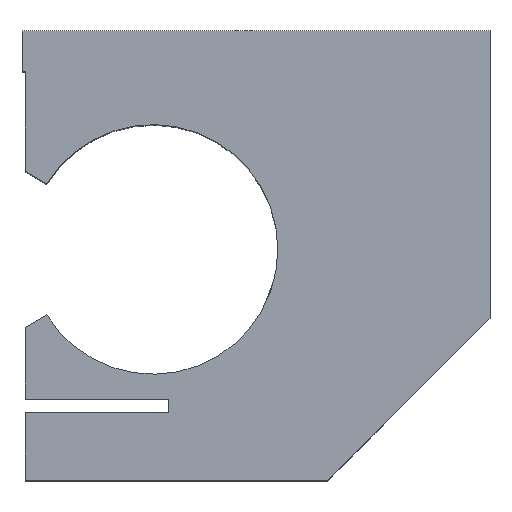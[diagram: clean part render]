
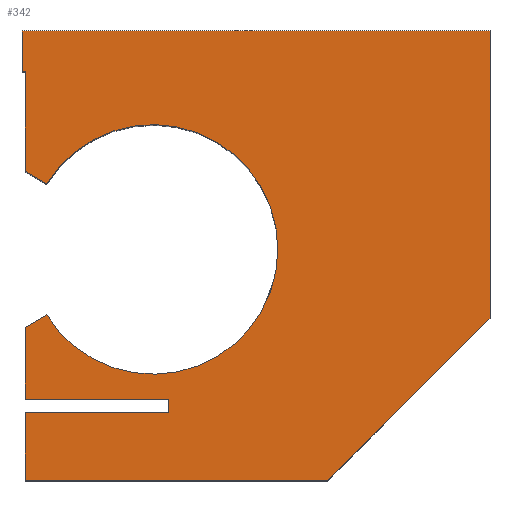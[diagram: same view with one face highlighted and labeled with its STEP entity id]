
A CAD part, top view. The second image highlights one B-rep face of the part: STEP entity #342.
In plain terms, the highlighted planar face has unit normal (0, 0, 1).
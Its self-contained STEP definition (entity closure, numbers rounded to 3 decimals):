
#22 = VERTEX_POINT ( 'NONE', #1128 ) ;
#55 = VECTOR ( 'NONE', #841, 1000. ) ;
#64 = VECTOR ( 'NONE', #785, 1000. ) ;
#68 = LINE ( 'NONE', #1451, #155 ) ;
#69 = LINE ( 'NONE', #1640, #152 ) ;
#79 = CARTESIAN_POINT ( 'NONE',  ( -33.522, 11.5, 33.5 ) ) ;
#80 = VERTEX_POINT ( 'NONE', #250 ) ;
#89 = CARTESIAN_POINT ( 'NONE',  ( -37., -25.15, 33.5 ) ) ;
#92 = VECTOR ( 'NONE', #1228, 1000. ) ;
#110 = LINE ( 'NONE', #406, #1196 ) ;
#130 = DIRECTION ( 'NONE',  ( -1., 0., 0. ) ) ;
#132 = CARTESIAN_POINT ( 'NONE',  ( -16.5, 1., 33.5 ) ) ;
#144 = VERTEX_POINT ( 'NONE', #1659 ) ;
#152 = VECTOR ( 'NONE', #450, 1000. ) ;
#155 = VECTOR ( 'NONE', #305, 1000. ) ;
#247 = LINE ( 'NONE', #661, #64 ) ;
#250 = CARTESIAN_POINT ( 'NONE',  ( 37.5, -10., 33.5 ) ) ;
#251 = CARTESIAN_POINT ( 'NONE',  ( -37., 29.5, 33.5 ) ) ;
#257 = AXIS2_PLACEMENT_3D ( 'NONE', #132, #1045, #1397 ) ;
#280 = DIRECTION ( 'NONE',  ( -1., 0., 0. ) ) ;
#292 = LINE ( 'NONE', #556, #1330 ) ;
#304 = ORIENTED_EDGE ( 'NONE', *, *, #1155, .T. ) ;
#305 = DIRECTION ( 'NONE',  ( -0.866, 0.5, 0. ) ) ;
#320 = FACE_OUTER_BOUND ( 'NONE', #571, .T. ) ;
#342 = ADVANCED_FACE ( 'NONE', ( #320 ), #1368, .T. ) ;
#347 = VECTOR ( 'NONE', #1028, 1000. ) ;
#362 = CARTESIAN_POINT ( 'NONE',  ( -37., -11.508, 33.5 ) ) ;
#363 = ORIENTED_EDGE ( 'NONE', *, *, #1152, .F. ) ;
#381 = CARTESIAN_POINT ( 'NONE',  ( -37.5, 36., 33.5 ) ) ;
#406 = CARTESIAN_POINT ( 'NONE',  ( 23.75, -23.75, 33.5 ) ) ;
#413 = CARTESIAN_POINT ( 'NONE',  ( -33.522, -9.5, 33.5 ) ) ;
#450 = DIRECTION ( 'NONE',  ( 0., 1., 0. ) ) ;
#487 = LINE ( 'NONE', #1432, #347 ) ;
#519 = CARTESIAN_POINT ( 'NONE',  ( -37.5, 29.5, 33.5 ) ) ;
#522 = ORIENTED_EDGE ( 'NONE', *, *, #604, .F. ) ;
#526 = VERTEX_POINT ( 'NONE', #631 ) ;
#542 = EDGE_CURVE ( 'NONE', #144, #1108, #1672, .T. ) ;
#556 = CARTESIAN_POINT ( 'NONE',  ( -14., -23., 33.5 ) ) ;
#561 = VECTOR ( 'NONE', #671, 1000. ) ;
#570 = LINE ( 'NONE', #1103, #55 ) ;
#571 = EDGE_LOOP ( 'NONE', ( #608, #1200, #913, #1179, #1178, #522, #729, #928, #363, #1680, #1696, #886, #1323, #655, #670, #304 ) ) ;
#577 = EDGE_CURVE ( 'NONE', #1531, #1457, #247, .T. ) ;
#596 = CARTESIAN_POINT ( 'NONE',  ( -14., -23., 33.5 ) ) ;
#604 = EDGE_CURVE ( 'NONE', #1457, #821, #487, .T. ) ;
#608 = ORIENTED_EDGE ( 'NONE', *, *, #1416, .F. ) ;
#616 = VECTOR ( 'NONE', #895, 1000. ) ;
#631 = CARTESIAN_POINT ( 'NONE',  ( -37., 13.508, 33.5 ) ) ;
#641 = DIRECTION ( 'NONE',  ( 0., 1., 0. ) ) ;
#655 = ORIENTED_EDGE ( 'NONE', *, *, #1276, .T. ) ;
#661 = CARTESIAN_POINT ( 'NONE',  ( -37., 29.5, 33.5 ) ) ;
#670 = ORIENTED_EDGE ( 'NONE', *, *, #542, .T. ) ;
#671 = DIRECTION ( 'NONE',  ( 0., 1., 0. ) ) ;
#685 = VECTOR ( 'NONE', #130, 1000. ) ;
#706 = VERTEX_POINT ( 'NONE', #930 ) ;
#724 = CARTESIAN_POINT ( 'NONE',  ( 0., 0., 33.5 ) ) ;
#729 = ORIENTED_EDGE ( 'NONE', *, *, #577, .F. ) ;
#734 = CARTESIAN_POINT ( 'NONE',  ( 11.5, -36., 33.5 ) ) ;
#748 = CARTESIAN_POINT ( 'NONE',  ( -37.5, 36., 33.5 ) ) ;
#749 = CARTESIAN_POINT ( 'NONE',  ( -16.5, 1., 33.5 ) ) ;
#760 = CARTESIAN_POINT ( 'NONE',  ( -37.5, 36., 33.5 ) ) ;
#768 = VERTEX_POINT ( 'NONE', #1287 ) ;
#778 = EDGE_CURVE ( 'NONE', #1236, #80, #110, .T. ) ;
#779 = CIRCLE ( 'NONE', #1292, 20. ) ;
#785 = DIRECTION ( 'NONE',  ( 0., 1., 0. ) ) ;
#821 = VERTEX_POINT ( 'NONE', #413 ) ;
#841 = DIRECTION ( 'NONE',  ( 1., 0., 0. ) ) ;
#886 = ORIENTED_EDGE ( 'NONE', *, *, #1331, .T. ) ;
#895 = DIRECTION ( 'NONE',  ( 0., -1., 0. ) ) ;
#898 = AXIS2_PLACEMENT_3D ( 'NONE', #724, #1092, #1257 ) ;
#908 = DIRECTION ( 'NONE',  ( 1., 0., 0. ) ) ;
#913 = ORIENTED_EDGE ( 'NONE', *, *, #1058, .F. ) ;
#928 = ORIENTED_EDGE ( 'NONE', *, *, #1046, .F. ) ;
#930 = CARTESIAN_POINT ( 'NONE',  ( -14., -23., 33.5 ) ) ;
#941 = CARTESIAN_POINT ( 'NONE',  ( -14., -25.15, 33.5 ) ) ;
#961 = EDGE_CURVE ( 'NONE', #526, #22, #1560, .T. ) ;
#983 = CARTESIAN_POINT ( 'NONE',  ( -37., 29.5, 33.5 ) ) ;
#1011 = EDGE_CURVE ( 'NONE', #768, #1120, #1669, .T. ) ;
#1028 = DIRECTION ( 'NONE',  ( 0.866, 0.5, 0. ) ) ;
#1045 = DIRECTION ( 'NONE',  ( 0., 0., 1. ) ) ;
#1046 = EDGE_CURVE ( 'NONE', #706, #1531, #292, .T. ) ;
#1048 = CARTESIAN_POINT ( 'NONE',  ( -37., 29.5, 33.5 ) ) ;
#1058 = EDGE_CURVE ( 'NONE', #1336, #526, #68, .T. ) ;
#1078 = VERTEX_POINT ( 'NONE', #1340 ) ;
#1090 = VERTEX_POINT ( 'NONE', #941 ) ;
#1092 = DIRECTION ( 'NONE',  ( 0., 0., 1. ) ) ;
#1103 = CARTESIAN_POINT ( 'NONE',  ( -37.5, -36., 33.5 ) ) ;
#1108 = VERTEX_POINT ( 'NONE', #760 ) ;
#1119 = LINE ( 'NONE', #1627, #1481 ) ;
#1120 = VERTEX_POINT ( 'NONE', #89 ) ;
#1128 = CARTESIAN_POINT ( 'NONE',  ( -37., 29.5, 33.5 ) ) ;
#1140 = CARTESIAN_POINT ( 'NONE',  ( -37., -23., 33.5 ) ) ;
#1150 = EDGE_CURVE ( 'NONE', #1078, #1336, #779, .T. ) ;
#1152 = EDGE_CURVE ( 'NONE', #1090, #706, #1639, .T. ) ;
#1155 = EDGE_CURVE ( 'NONE', #1108, #1453, #1536, .T. ) ;
#1178 = ORIENTED_EDGE ( 'NONE', *, *, #1508, .F. ) ;
#1179 = ORIENTED_EDGE ( 'NONE', *, *, #1150, .F. ) ;
#1196 = VECTOR ( 'NONE', #1447, 1000. ) ;
#1200 = ORIENTED_EDGE ( 'NONE', *, *, #961, .F. ) ;
#1228 = DIRECTION ( 'NONE',  ( -1., 0., 0. ) ) ;
#1236 = VERTEX_POINT ( 'NONE', #734 ) ;
#1257 = DIRECTION ( 'NONE',  ( 1., 0., 0. ) ) ;
#1268 = DIRECTION ( 'NONE',  ( 0., 0., 1. ) ) ;
#1275 = VECTOR ( 'NONE', #1697, 1000. ) ;
#1276 = EDGE_CURVE ( 'NONE', #80, #144, #69, .T. ) ;
#1287 = CARTESIAN_POINT ( 'NONE',  ( -37., -36., 33.5 ) ) ;
#1292 = AXIS2_PLACEMENT_3D ( 'NONE', #749, #1268, #908 ) ;
#1323 = ORIENTED_EDGE ( 'NONE', *, *, #778, .T. ) ;
#1330 = VECTOR ( 'NONE', #280, 1000. ) ;
#1331 = EDGE_CURVE ( 'NONE', #768, #1236, #570, .T. ) ;
#1336 = VERTEX_POINT ( 'NONE', #79 ) ;
#1340 = CARTESIAN_POINT ( 'NONE',  ( 3.5, 1., 33.5 ) ) ;
#1352 = LINE ( 'NONE', #983, #92 ) ;
#1364 = EDGE_CURVE ( 'NONE', #1090, #1120, #1119, .T. ) ;
#1365 = DIRECTION ( 'NONE',  ( -1., 0., 0. ) ) ;
#1368 = PLANE ( 'NONE',  #898 ) ;
#1397 = DIRECTION ( 'NONE',  ( 1., 0., 0. ) ) ;
#1410 = CIRCLE ( 'NONE', #257, 20. ) ;
#1416 = EDGE_CURVE ( 'NONE', #22, #1453, #1352, .T. ) ;
#1432 = CARTESIAN_POINT ( 'NONE',  ( -37.5, -11.797, 33.5 ) ) ;
#1437 = VECTOR ( 'NONE', #641, 1000. ) ;
#1447 = DIRECTION ( 'NONE',  ( 0.707, 0.707, 0. ) ) ;
#1451 = CARTESIAN_POINT ( 'NONE',  ( -33.522, 11.5, 33.5 ) ) ;
#1453 = VERTEX_POINT ( 'NONE', #519 ) ;
#1457 = VERTEX_POINT ( 'NONE', #362 ) ;
#1481 = VECTOR ( 'NONE', #1365, 1000. ) ;
#1508 = EDGE_CURVE ( 'NONE', #821, #1078, #1410, .T. ) ;
#1531 = VERTEX_POINT ( 'NONE', #1140 ) ;
#1536 = LINE ( 'NONE', #381, #616 ) ;
#1560 = LINE ( 'NONE', #1048, #561 ) ;
#1627 = CARTESIAN_POINT ( 'NONE',  ( -14., -25.15, 33.5 ) ) ;
#1639 = LINE ( 'NONE', #596, #1437 ) ;
#1640 = CARTESIAN_POINT ( 'NONE',  ( 37.5, 36., 33.5 ) ) ;
#1659 = CARTESIAN_POINT ( 'NONE',  ( 37.5, 36., 33.5 ) ) ;
#1669 = LINE ( 'NONE', #251, #1275 ) ;
#1672 = LINE ( 'NONE', #748, #685 ) ;
#1680 = ORIENTED_EDGE ( 'NONE', *, *, #1364, .T. ) ;
#1696 = ORIENTED_EDGE ( 'NONE', *, *, #1011, .F. ) ;
#1697 = DIRECTION ( 'NONE',  ( 0., 1., 0. ) ) ;
